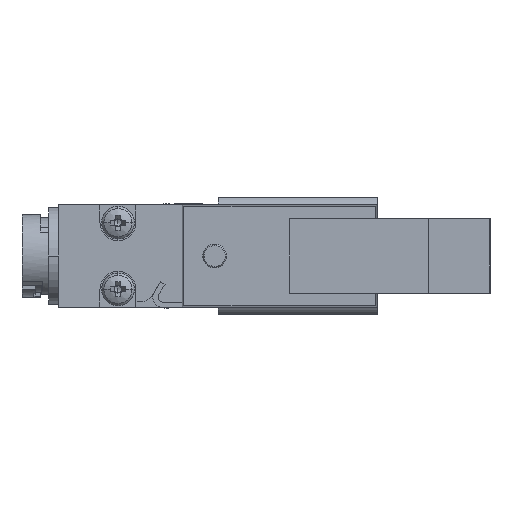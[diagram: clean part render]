
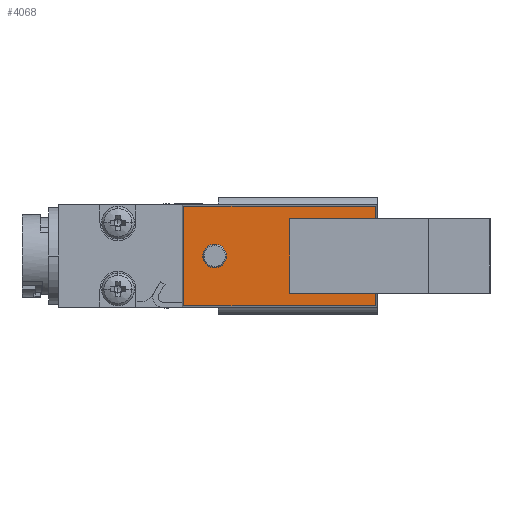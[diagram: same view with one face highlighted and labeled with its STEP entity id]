
A CAD part, left-side view. The second image highlights one B-rep face of the part: STEP entity #4068.
In plain terms, the highlighted planar face has unit normal (-1, 0, 0) as drawn and (0, 0, 1) by its records, which use the part's own axes.
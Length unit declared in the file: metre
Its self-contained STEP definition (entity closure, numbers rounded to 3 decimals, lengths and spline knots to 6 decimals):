
#616 =( BOUNDED_CURVE ( )  B_SPLINE_CURVE ( 3, ( #8326, #8144, #8111, #8349 ),
 .UNSPECIFIED., .F., .F. ) 
 B_SPLINE_CURVE_WITH_KNOTS ( ( 4, 4 ),
 ( 0., 0.001563 ),
 .UNSPECIFIED. ) 
 CURVE ( )  GEOMETRIC_REPRESENTATION_ITEM ( )  RATIONAL_B_SPLINE_CURVE ( ( 0.957, 0.319, 0.319, 0.957 ) ) 
 REPRESENTATION_ITEM ( '' )  );
#798 = CARTESIAN_POINT ( 'NONE',  ( 0.0015, 0.0075, 0.005 ) ) ;
#859 = EDGE_LOOP ( 'NONE', ( #5458, #4428 ) ) ;
#1080 = CARTESIAN_POINT ( 'NONE',  ( -0.0005, 0.0085, 0.005 ) ) ;
#1121 = LINE ( 'NONE', #7612, #10458 ) ;
#1284 = EDGE_CURVE ( 'NONE', #15780, #12054, #4744, .T. ) ;
#1360 = EDGE_CURVE ( 'NONE', #2585, #8140, #616, .T. ) ;
#1791 = CIRCLE ( 'NONE', #10863, 0.00115 ) ;
#1826 = DIRECTION ( 'NONE',  ( 1., 0., 0. ) ) ;
#1972 = DIRECTION ( 'NONE',  ( 0., 0., -1. ) ) ;
#2103 = CARTESIAN_POINT ( 'NONE',  ( 0.0005, 0.0085, 0.005 ) ) ;
#2378 = CARTESIAN_POINT ( 'NONE',  ( -0.0015, 0.0075, 0.005 ) ) ;
#2585 = VERTEX_POINT ( 'NONE', #2801 ) ;
#2743 = CARTESIAN_POINT ( 'NONE',  ( -0.004825, 0.001175, 0.005 ) ) ;
#2801 = CARTESIAN_POINT ( 'NONE',  ( 0.0005, 0.0075, 0.005 ) ) ;
#3014 =( BOUNDED_CURVE ( )  B_SPLINE_CURVE ( 3, ( #15075, #11325, #3830, #12627 ),
 .UNSPECIFIED., .F., .T. ) 
 B_SPLINE_CURVE_WITH_KNOTS ( ( 4, 4 ),
 ( 0., 0.001563 ),
 .UNSPECIFIED. ) 
 CURVE ( )  GEOMETRIC_REPRESENTATION_ITEM ( )  RATIONAL_B_SPLINE_CURVE ( ( 0.957, 0.319, 0.319, 0.957 ) ) 
 REPRESENTATION_ITEM ( '' )  );
#3170 = CARTESIAN_POINT ( 'NONE',  ( -0.0015, 0.0075, 0.005 ) ) ;
#3184 = VERTEX_POINT ( 'NONE', #4126 ) ;
#3221 = AXIS2_PLACEMENT_3D ( 'NONE', #7633, #7952, #7975 ) ;
#3255 = CARTESIAN_POINT ( 'NONE',  ( 0.00115, 0.016825, 0.005 ) ) ;
#3610 = CARTESIAN_POINT ( 'NONE',  ( -0.0005, 0.0075, 0.005 ) ) ;
#3830 = CARTESIAN_POINT ( 'NONE',  ( -0.0005, 0.0065, 0.005 ) ) ;
#3854 = CARTESIAN_POINT ( 'NONE',  ( 0., 0.001175, 0.005 ) ) ;
#3855 = FACE_BOUND ( 'NONE', #14585, .T. ) ;
#4068 = ADVANCED_FACE ( 'NONE', ( #3855, #7638, #13870, #7249 ), #7932, .F. ) ;
#4075 = EDGE_CURVE ( 'NONE', #12510, #7053, #10181, .T. ) ;
#4126 = CARTESIAN_POINT ( 'NONE',  ( -0.004825, 0.019825, 0.005 ) ) ;
#4428 = ORIENTED_EDGE ( 'NONE', *, *, #13885, .F. ) ;
#4640 = CARTESIAN_POINT ( 'NONE',  ( 0.0015, 0.0085, 0.005 ) ) ;
#4744 = LINE ( 'NONE', #7193, #11043 ) ;
#4794 = ORIENTED_EDGE ( 'NONE', *, *, #5999, .T. ) ;
#4878 = ORIENTED_EDGE ( 'NONE', *, *, #4075, .T. ) ;
#4985 = VERTEX_POINT ( 'NONE', #2743 ) ;
#5303 = LINE ( 'NONE', #7029, #14876 ) ;
#5343 = ORIENTED_EDGE ( 'NONE', *, *, #1284, .F. ) ;
#5458 = ORIENTED_EDGE ( 'NONE', *, *, #13978, .F. ) ;
#5999 = EDGE_CURVE ( 'NONE', #7053, #12510, #1791, .T. ) ;
#6037 = CARTESIAN_POINT ( 'NONE',  ( 0.004825, 0.019825, 0.005 ) ) ;
#6134 = CARTESIAN_POINT ( 'NONE',  ( 0.004825, 0.001175, 0.005 ) ) ;
#6491 = ORIENTED_EDGE ( 'NONE', *, *, #13651, .F. ) ;
#6679 = CARTESIAN_POINT ( 'NONE',  ( -0.00115, 0.016825, 0.005 ) ) ;
#7029 = CARTESIAN_POINT ( 'NONE',  ( 0., 0.019825, 0.005 ) ) ;
#7053 = VERTEX_POINT ( 'NONE', #6679 ) ;
#7148 = EDGE_LOOP ( 'NONE', ( #6491, #10027, #10382, #5343 ) ) ;
#7193 = CARTESIAN_POINT ( 'NONE',  ( 0.004825, 0.0105, 0.005 ) ) ;
#7226 = DIRECTION ( 'NONE',  ( 0., -1., 0. ) ) ;
#7249 = FACE_OUTER_BOUND ( 'NONE', #7148, .T. ) ;
#7612 = CARTESIAN_POINT ( 'NONE',  ( -0.004825, 0.0105, 0.005 ) ) ;
#7633 = CARTESIAN_POINT ( 'NONE',  ( 0.004825, 0.001175, 0.005 ) ) ;
#7638 = FACE_BOUND ( 'NONE', #8032, .T. ) ;
#7932 = PLANE ( 'NONE',  #3221 ) ;
#7952 = DIRECTION ( 'NONE',  ( 0., 0., -1. ) ) ;
#7975 = DIRECTION ( 'NONE',  ( -1., 0., 0. ) ) ;
#8032 = EDGE_LOOP ( 'NONE', ( #10081, #12892 ) ) ;
#8111 = CARTESIAN_POINT ( 'NONE',  ( 0.0015, 0.0065, 0.005 ) ) ;
#8124 = CARTESIAN_POINT ( 'NONE',  ( 0., 0.016825, 0.005 ) ) ;
#8140 = VERTEX_POINT ( 'NONE', #15452 ) ;
#8144 = CARTESIAN_POINT ( 'NONE',  ( 0.0005, 0.0065, 0.005 ) ) ;
#8221 = DIRECTION ( 'NONE',  ( 0., 0., -1. ) ) ;
#8234 = DIRECTION ( 'NONE',  ( -1., 0., 0. ) ) ;
#8326 = CARTESIAN_POINT ( 'NONE',  ( 0.0005, 0.0075, 0.005 ) ) ;
#8349 = CARTESIAN_POINT ( 'NONE',  ( 0.0015, 0.0075, 0.005 ) ) ;
#8657 =( BOUNDED_CURVE ( )  B_SPLINE_CURVE ( 3, ( #798, #4640, #2103, #10963 ),
 .UNSPECIFIED., .F., .F. ) 
 B_SPLINE_CURVE_WITH_KNOTS ( ( 4, 4 ),
 ( 0., 0.001563 ),
 .UNSPECIFIED. ) 
 CURVE ( )  GEOMETRIC_REPRESENTATION_ITEM ( )  RATIONAL_B_SPLINE_CURVE ( ( 0.957, 0.319, 0.319, 0.957 ) ) 
 REPRESENTATION_ITEM ( '' )  );
#8923 = VERTEX_POINT ( 'NONE', #10656 ) ;
#9432 = LINE ( 'NONE', #3854, #15688 ) ;
#9589 = DIRECTION ( 'NONE',  ( -1., 0., 0. ) ) ;
#9969 = EDGE_CURVE ( 'NONE', #12054, #4985, #9432, .T. ) ;
#9974 = CARTESIAN_POINT ( 'NONE',  ( -0.0015, 0.0085, 0.005 ) ) ;
#10027 = ORIENTED_EDGE ( 'NONE', *, *, #12173, .F. ) ;
#10081 = ORIENTED_EDGE ( 'NONE', *, *, #10388, .F. ) ;
#10181 = CIRCLE ( 'NONE', #16179, 0.00115 ) ;
#10382 = ORIENTED_EDGE ( 'NONE', *, *, #9969, .F. ) ;
#10388 = EDGE_CURVE ( 'NONE', #8140, #2585, #8657, .T. ) ;
#10458 = VECTOR ( 'NONE', #15071, 1. ) ;
#10656 = CARTESIAN_POINT ( 'NONE',  ( -0.0005, 0.0075, 0.005 ) ) ;
#10835 = CARTESIAN_POINT ( 'NONE',  ( 0., 0.016825, 0.005 ) ) ;
#10863 = AXIS2_PLACEMENT_3D ( 'NONE', #10835, #1972, #9589 ) ;
#10963 = CARTESIAN_POINT ( 'NONE',  ( 0.0005, 0.0075, 0.005 ) ) ;
#11043 = VECTOR ( 'NONE', #7226, 1. ) ;
#11325 = CARTESIAN_POINT ( 'NONE',  ( -0.0015, 0.0065, 0.005 ) ) ;
#12054 = VERTEX_POINT ( 'NONE', #6134 ) ;
#12173 = EDGE_CURVE ( 'NONE', #4985, #3184, #1121, .T. ) ;
#12510 = VERTEX_POINT ( 'NONE', #3255 ) ;
#12627 = CARTESIAN_POINT ( 'NONE',  ( -0.0005, 0.0075, 0.005 ) ) ;
#12892 = ORIENTED_EDGE ( 'NONE', *, *, #1360, .F. ) ;
#13492 =( BOUNDED_CURVE ( )  B_SPLINE_CURVE ( 3, ( #3610, #1080, #9974, #2378 ),
 .UNSPECIFIED., .F., .F. ) 
 B_SPLINE_CURVE_WITH_KNOTS ( ( 4, 4 ),
 ( 0., 0.001563 ),
 .UNSPECIFIED. ) 
 CURVE ( )  GEOMETRIC_REPRESENTATION_ITEM ( )  RATIONAL_B_SPLINE_CURVE ( ( 0.957, 0.319, 0.319, 0.957 ) ) 
 REPRESENTATION_ITEM ( '' )  );
#13651 = EDGE_CURVE ( 'NONE', #3184, #15780, #5303, .T. ) ;
#13870 = FACE_BOUND ( 'NONE', #859, .T. ) ;
#13885 = EDGE_CURVE ( 'NONE', #8923, #16168, #13492, .T. ) ;
#13978 = EDGE_CURVE ( 'NONE', #16168, #8923, #3014, .T. ) ;
#14585 = EDGE_LOOP ( 'NONE', ( #4794, #4878 ) ) ;
#14876 = VECTOR ( 'NONE', #1826, 1. ) ;
#15071 = DIRECTION ( 'NONE',  ( 0., 1., 0. ) ) ;
#15075 = CARTESIAN_POINT ( 'NONE',  ( -0.0015, 0.0075, 0.005 ) ) ;
#15155 = DIRECTION ( 'NONE',  ( -1., 0., 0. ) ) ;
#15452 = CARTESIAN_POINT ( 'NONE',  ( 0.0015, 0.0075, 0.005 ) ) ;
#15688 = VECTOR ( 'NONE', #15155, 1. ) ;
#15780 = VERTEX_POINT ( 'NONE', #6037 ) ;
#16168 = VERTEX_POINT ( 'NONE', #3170 ) ;
#16179 = AXIS2_PLACEMENT_3D ( 'NONE', #8124, #8221, #8234 ) ;
